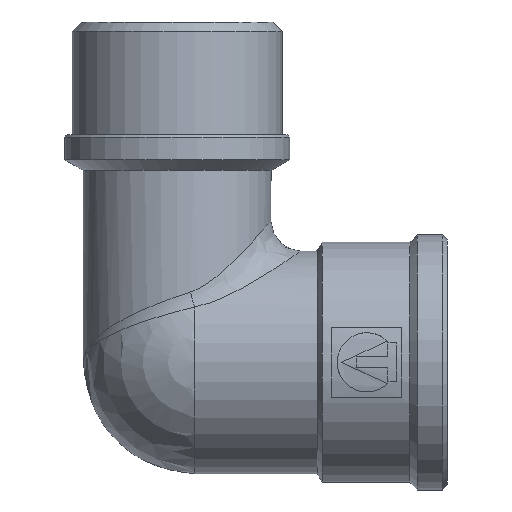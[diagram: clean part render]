
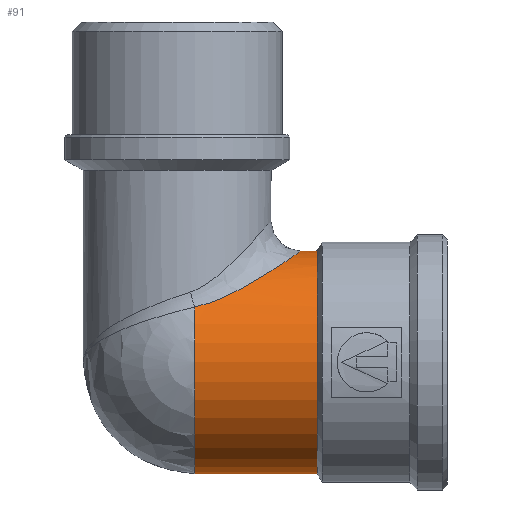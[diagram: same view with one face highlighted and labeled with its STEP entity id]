
A CAD part, left-side view. The second image highlights one B-rep face of the part: STEP entity #91.
In plain terms, the highlighted cylindrical face has radius 22.25 mm (diameter 44.5 mm), a full revolution.
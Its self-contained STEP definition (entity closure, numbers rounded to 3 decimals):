
#91=ADVANCED_FACE('',(#656,#658),#660,.T.);
#656=FACE_BOUND('',#657,.T.);
#657=EDGE_LOOP('',(#3888,#3889,#3890,#3891));
#658=FACE_BOUND('',#659,.T.);
#659=EDGE_LOOP('',(#3892,#3893));
#660=CYLINDRICAL_SURFACE('',#661,22.25);
#661=AXIS2_PLACEMENT_3D('',#662,#663,#664);
#662=CARTESIAN_POINT('',(0.,-54.,0.));
#663=DIRECTION('',(0.,1.,0.));
#664=DIRECTION('',(-1.,0.,0.));
#3888=ORIENTED_EDGE('',*,*,#5505,.F.);
#3889=ORIENTED_EDGE('',*,*,#5506,.F.);
#3890=ORIENTED_EDGE('',*,*,#5507,.F.);
#3891=ORIENTED_EDGE('',*,*,#5508,.F.);
#3892=ORIENTED_EDGE('',*,*,#5422,.F.);
#3893=ORIENTED_EDGE('',*,*,#5421,.F.);
#5421=EDGE_CURVE('',#6203,#6204,#6205,.T.);
#5422=EDGE_CURVE('',#6204,#6203,#6206,.T.);
#5505=EDGE_CURVE('',#6339,#6340,#6341,.T.);
#5506=EDGE_CURVE('',#6342,#6339,#6343,.T.);
#5507=EDGE_CURVE('',#6344,#6342,#6345,.T.);
#5508=EDGE_CURVE('',#6340,#6344,#6346,.F.);
#6203=VERTEX_POINT('',#8278);
#6204=VERTEX_POINT('',#8279);
#6205=CIRCLE('',#8280,22.25);
#6206=CIRCLE('',#8284,22.25);
#6339=VERTEX_POINT('',#8657);
#6340=VERTEX_POINT('',#8658);
#6341=CIRCLE('',#8659,22.25);
#6342=VERTEX_POINT('',#8663);
#6343=B_SPLINE_CURVE_WITH_KNOTS('',3,
(#8664,#8665,#8666,#8667,#8668,#8669,#8670,#8671,#8672,#8673,#8674,#8675,#8676,#8677,
#8678,#8679,#8680,#8681,#8682,#8683,#8684,#8685,#8686,#8687,#8688,#8689,#8690,#8691,
#8692,#8693,#8694,#8695,#8696,#8697,#8698,#8699,#8700,#8701,#8702,#8703,#8704,#8705,
#8706,#8707,#8708,#8709),
.UNSPECIFIED.,.F.,.F.,
(4,1,1,1,1,1,1,1,1,1,1,1,1,1,1,1,1,1,1,1,1,1,1,1,1,1,1,1,1,1,1,1,1,1,1,1,1,1,1,1,
1,1,1,4),
(0.,0.031,0.059,0.084,0.111,0.137,
0.166,0.196,0.229,0.259,0.288,
0.311,0.332,0.35,0.368,0.387,
0.405,0.423,0.439,0.453,0.466,
0.478,0.491,0.505,0.52,0.537,
0.556,0.577,0.598,0.62,0.648,
0.681,0.716,0.748,0.779,0.811,
0.841,0.868,0.892,0.913,0.934,
0.955,0.977,1.),
.UNSPECIFIED.);
#6344=VERTEX_POINT('',#8710);
#6345=CIRCLE('',#8711,22.25);
#6346=CIRCLE('',#8715,22.25);
#8278=CARTESIAN_POINT('',(22.25,-27.99,0.));
#8279=CARTESIAN_POINT('',(-22.25,-27.99,0.));
#8280=AXIS2_PLACEMENT_3D('',#8281,#8282,#8283);
#8281=CARTESIAN_POINT('',(0.,-27.99,0.));
#8282=DIRECTION('',(0.,-1.,0.));
#8283=DIRECTION('',(1.,0.,0.));
#8284=AXIS2_PLACEMENT_3D('',#8285,#8286,#8287);
#8285=CARTESIAN_POINT('',(0.,-27.99,0.));
#8286=DIRECTION('',(0.,-1.,0.));
#8287=DIRECTION('',(-1.,0.,0.));
#8657=CARTESIAN_POINT('',(19.297,-3.5,11.076));
#8658=CARTESIAN_POINT('',(22.25,-3.5,0.));
#8659=AXIS2_PLACEMENT_3D('',#8660,#8661,#8662);
#8660=CARTESIAN_POINT('',(0.,-3.5,0.));
#8661=DIRECTION('',(0.,1.,0.));
#8662=DIRECTION('',(0.867,0.,0.498));
#8663=CARTESIAN_POINT('',(-19.297,-3.5,11.076));
#8664=CARTESIAN_POINT('',(-19.297,-3.5,11.076));
#8665=CARTESIAN_POINT('',(-19.22,-4.229,11.21));
#8666=CARTESIAN_POINT('',(-19.011,-5.588,11.569));
#8667=CARTESIAN_POINT('',(-18.615,-7.417,12.195));
#8668=CARTESIAN_POINT('',(-18.152,-9.074,12.876));
#8669=CARTESIAN_POINT('',(-17.626,-10.616,13.59));
#8670=CARTESIAN_POINT('',(-16.991,-12.176,14.378));
#8671=CARTESIAN_POINT('',(-16.242,-13.729,15.223));
#8672=CARTESIAN_POINT('',(-15.34,-15.317,16.136));
#8673=CARTESIAN_POINT('',(-14.307,-16.852,17.061));
#8674=CARTESIAN_POINT('',(-13.174,-18.278,17.949));
#8675=CARTESIAN_POINT('',(-12.05,-19.483,18.72));
#8676=CARTESIAN_POINT('',(-10.973,-20.476,19.368));
#8677=CARTESIAN_POINT('',(-9.986,-21.271,19.893));
#8678=CARTESIAN_POINT('',(-9.042,-21.939,20.338));
#8679=CARTESIAN_POINT('',(-8.087,-22.534,20.737));
#8680=CARTESIAN_POINT('',(-7.083,-23.073,21.102));
#8681=CARTESIAN_POINT('',(-6.013,-23.558,21.432));
#8682=CARTESIAN_POINT('',(-4.97,-23.945,21.696));
#8683=CARTESIAN_POINT('',(-3.984,-24.237,21.897));
#8684=CARTESIAN_POINT('',(-3.08,-24.448,22.042));
#8685=CARTESIAN_POINT('',(-2.244,-24.593,22.141));
#8686=CARTESIAN_POINT('',(-1.415,-24.692,22.21));
#8687=CARTESIAN_POINT('',(-0.564,-24.748,22.249));
#8688=CARTESIAN_POINT('',(0.357,-24.756,22.254));
#8689=CARTESIAN_POINT('',(1.356,-24.702,22.217));
#8690=CARTESIAN_POINT('',(2.462,-24.567,22.124));
#8691=CARTESIAN_POINT('',(3.679,-24.324,21.956));
#8692=CARTESIAN_POINT('',(4.942,-23.961,21.707));
#8693=CARTESIAN_POINT('',(6.213,-23.479,21.378));
#8694=CARTESIAN_POINT('',(7.566,-22.837,20.942));
#8695=CARTESIAN_POINT('',(9.049,-21.961,20.351));
#8696=CARTESIAN_POINT('',(10.627,-20.795,19.576));
#8697=CARTESIAN_POINT('',(12.107,-19.443,18.693));
#8698=CARTESIAN_POINT('',(13.424,-17.987,17.766));
#8699=CARTESIAN_POINT('',(14.564,-16.493,16.841));
#8700=CARTESIAN_POINT('',(15.567,-14.94,15.915));
#8701=CARTESIAN_POINT('',(16.414,-13.394,15.036));
#8702=CARTESIAN_POINT('',(17.106,-11.905,14.239));
#8703=CARTESIAN_POINT('',(17.655,-10.526,13.549));
#8704=CARTESIAN_POINT('',(18.105,-9.207,12.939));
#8705=CARTESIAN_POINT('',(18.483,-7.904,12.392));
#8706=CARTESIAN_POINT('',(18.812,-6.54,11.886));
#8707=CARTESIAN_POINT('',(19.092,-5.079,11.43));
#8708=CARTESIAN_POINT('',(19.236,-4.042,11.183));
#8709=CARTESIAN_POINT('',(19.297,-3.5,11.076));
#8710=CARTESIAN_POINT('',(-22.25,-3.5,0.));
#8711=AXIS2_PLACEMENT_3D('',#8712,#8713,#8714);
#8712=CARTESIAN_POINT('',(0.,-3.5,0.));
#8713=DIRECTION('',(0.,1.,0.));
#8714=DIRECTION('',(-1.,0.,0.));
#8715=AXIS2_PLACEMENT_3D('',#8716,#8717,#8718);
#8716=CARTESIAN_POINT('',(0.,-3.5,0.));
#8717=DIRECTION('',(0.,-1.,0.));
#8718=DIRECTION('',(-1.,0.,0.));
